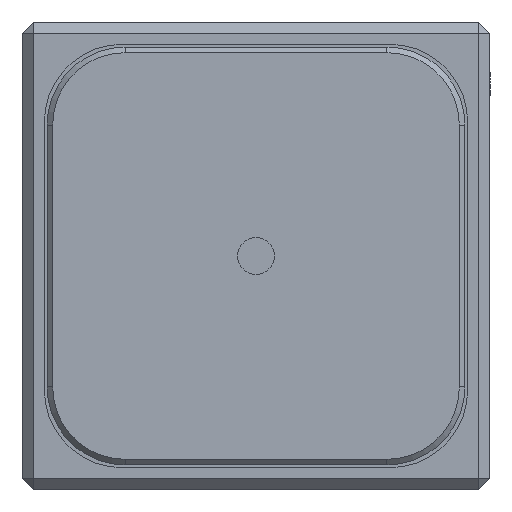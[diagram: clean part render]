
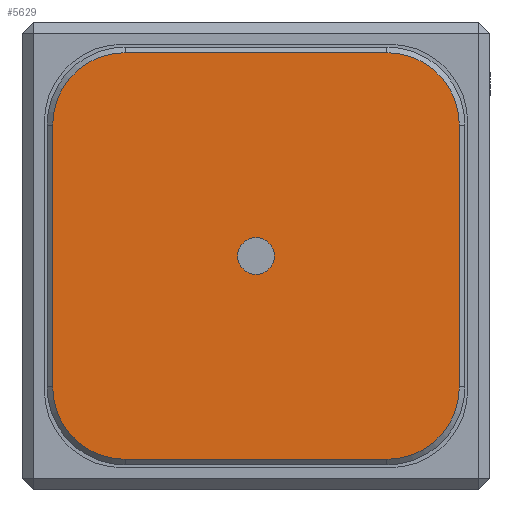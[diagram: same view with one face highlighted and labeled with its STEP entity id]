
A CAD part, front view. The second image highlights one B-rep face of the part: STEP entity #5629.
In plain terms, the highlighted planar face has unit normal (0, -1, 0).
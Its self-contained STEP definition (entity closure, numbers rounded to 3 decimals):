
#86 = VECTOR ( 'NONE', #3104, 1000. ) ;
#518 = ORIENTED_EDGE ( 'NONE', *, *, #9146, .F. ) ;
#525 = DIRECTION ( 'NONE',  ( 0., -1., 0. ) ) ;
#692 = AXIS2_PLACEMENT_3D ( 'NONE', #8023, #5794, #2154 ) ;
#714 = VERTEX_POINT ( 'NONE', #7784 ) ;
#749 = ORIENTED_EDGE ( 'NONE', *, *, #4318, .T. ) ;
#758 = VERTEX_POINT ( 'NONE', #7203 ) ;
#793 = CARTESIAN_POINT ( 'NONE',  ( -18.25, -21.2, -11.75 ) ) ;
#837 = CARTESIAN_POINT ( 'NONE',  ( 0., -21.2, 0. ) ) ;
#879 = DIRECTION ( 'NONE',  ( 0., -1., 0. ) ) ;
#931 = DIRECTION ( 'NONE',  ( -1., 0., 0. ) ) ;
#1045 = DIRECTION ( 'NONE',  ( -1., 0., 0. ) ) ;
#1138 = DIRECTION ( 'NONE',  ( 0., -1., 0. ) ) ;
#1313 = DIRECTION ( 'NONE',  ( 0., 0., 1. ) ) ;
#1341 = CARTESIAN_POINT ( 'NONE',  ( 18.25, -21.2, -11.75 ) ) ;
#1513 = VERTEX_POINT ( 'NONE', #6354 ) ;
#1625 = EDGE_CURVE ( 'NONE', #3387, #3061, #3778, .T. ) ;
#1682 = DIRECTION ( 'NONE',  ( 1., 0., 0. ) ) ;
#1749 = DIRECTION ( 'NONE',  ( 0., -1., 0. ) ) ;
#1822 = CIRCLE ( 'NONE', #5081, 6.5 ) ;
#1914 = AXIS2_PLACEMENT_3D ( 'NONE', #3112, #1749, #8397 ) ;
#2015 = FACE_BOUND ( 'NONE', #4229, .T. ) ;
#2041 = VERTEX_POINT ( 'NONE', #6326 ) ;
#2154 = DIRECTION ( 'NONE',  ( -1., 0., 0. ) ) ;
#2476 = CARTESIAN_POINT ( 'NONE',  ( 11.75, -21.2, -18.25 ) ) ;
#2549 = DIRECTION ( 'NONE',  ( 0., -1., 0. ) ) ;
#2803 = VECTOR ( 'NONE', #1682, 1000. ) ;
#2906 = CARTESIAN_POINT ( 'NONE',  ( 18.25, -21.2, 11.75 ) ) ;
#2928 = ORIENTED_EDGE ( 'NONE', *, *, #9168, .T. ) ;
#2934 = VERTEX_POINT ( 'NONE', #2906 ) ;
#2950 = CIRCLE ( 'NONE', #8364, 1.65 ) ;
#3061 = VERTEX_POINT ( 'NONE', #8853 ) ;
#3104 = DIRECTION ( 'NONE',  ( 0., 0., -1. ) ) ;
#3112 = CARTESIAN_POINT ( 'NONE',  ( 0., -21.2, 0. ) ) ;
#3140 = DIRECTION ( 'NONE',  ( -1., 0., 0. ) ) ;
#3155 = CIRCLE ( 'NONE', #1914, 1.65 ) ;
#3248 = VECTOR ( 'NONE', #1313, 1000. ) ;
#3387 = VERTEX_POINT ( 'NONE', #8739 ) ;
#3413 = EDGE_CURVE ( 'NONE', #714, #3387, #5014, .T. ) ;
#3475 = DIRECTION ( 'NONE',  ( -1., 0., 0. ) ) ;
#3778 = CIRCLE ( 'NONE', #6865, 6.5 ) ;
#3846 = VERTEX_POINT ( 'NONE', #7596 ) ;
#3999 = EDGE_LOOP ( 'NONE', ( #749, #2928, #4163, #6200, #7089, #8124, #9111, #9229 ) ) ;
#4163 = ORIENTED_EDGE ( 'NONE', *, *, #8088, .T. ) ;
#4229 = EDGE_LOOP ( 'NONE', ( #9380, #518 ) ) ;
#4318 = EDGE_CURVE ( 'NONE', #2041, #3846, #1822, .T. ) ;
#5014 = LINE ( 'NONE', #6704, #7869 ) ;
#5081 = AXIS2_PLACEMENT_3D ( 'NONE', #7780, #1138, #1045 ) ;
#5163 = VERTEX_POINT ( 'NONE', #1341 ) ;
#5199 = LINE ( 'NONE', #6698, #3248 ) ;
#5504 = DIRECTION ( 'NONE',  ( -1., 0., 0. ) ) ;
#5629 = ADVANCED_FACE ( 'NONE', ( #7883, #2015 ), #7149, .T. ) ;
#5719 = CIRCLE ( 'NONE', #8501, 6.5 ) ;
#5794 = DIRECTION ( 'NONE',  ( 0., -1., 0. ) ) ;
#6142 = EDGE_CURVE ( 'NONE', #3061, #2041, #6788, .T. ) ;
#6177 = CARTESIAN_POINT ( 'NONE',  ( 11.75, -21.2, 11.75 ) ) ;
#6200 = ORIENTED_EDGE ( 'NONE', *, *, #8983, .T. ) ;
#6326 = CARTESIAN_POINT ( 'NONE',  ( -18.25, -21.2, -11.75 ) ) ;
#6354 = CARTESIAN_POINT ( 'NONE',  ( 1.65, -21.2, 0. ) ) ;
#6698 = CARTESIAN_POINT ( 'NONE',  ( 18.25, -21.2, 11.75 ) ) ;
#6704 = CARTESIAN_POINT ( 'NONE',  ( -11.75, -21.2, 18.25 ) ) ;
#6743 = LINE ( 'NONE', #2476, #2803 ) ;
#6788 = LINE ( 'NONE', #793, #86 ) ;
#6865 = AXIS2_PLACEMENT_3D ( 'NONE', #9102, #879, #3140 ) ;
#7089 = ORIENTED_EDGE ( 'NONE', *, *, #9311, .T. ) ;
#7149 = PLANE ( 'NONE',  #8791 ) ;
#7203 = CARTESIAN_POINT ( 'NONE',  ( 11.75, -21.2, -18.25 ) ) ;
#7596 = CARTESIAN_POINT ( 'NONE',  ( -11.75, -21.2, -18.25 ) ) ;
#7780 = CARTESIAN_POINT ( 'NONE',  ( -11.75, -21.2, -11.75 ) ) ;
#7784 = CARTESIAN_POINT ( 'NONE',  ( 11.75, -21.2, 18.25 ) ) ;
#7869 = VECTOR ( 'NONE', #931, 1000. ) ;
#7883 = FACE_OUTER_BOUND ( 'NONE', #3999, .T. ) ;
#8023 = CARTESIAN_POINT ( 'NONE',  ( 11.75, -21.2, -11.75 ) ) ;
#8088 = EDGE_CURVE ( 'NONE', #758, #5163, #9196, .T. ) ;
#8124 = ORIENTED_EDGE ( 'NONE', *, *, #3413, .T. ) ;
#8193 = DIRECTION ( 'NONE',  ( -1., 0., 0. ) ) ;
#8285 = EDGE_CURVE ( 'NONE', #8966, #1513, #3155, .T. ) ;
#8364 = AXIS2_PLACEMENT_3D ( 'NONE', #837, #9008, #8193 ) ;
#8397 = DIRECTION ( 'NONE',  ( -1., 0., 0. ) ) ;
#8501 = AXIS2_PLACEMENT_3D ( 'NONE', #6177, #2549, #5504 ) ;
#8739 = CARTESIAN_POINT ( 'NONE',  ( -11.75, -21.2, 18.25 ) ) ;
#8791 = AXIS2_PLACEMENT_3D ( 'NONE', #8804, #525, #3475 ) ;
#8804 = CARTESIAN_POINT ( 'NONE',  ( 0., -21.2, 0. ) ) ;
#8853 = CARTESIAN_POINT ( 'NONE',  ( -18.25, -21.2, 11.75 ) ) ;
#8879 = CARTESIAN_POINT ( 'NONE',  ( -1.65, -21.2, 0. ) ) ;
#8966 = VERTEX_POINT ( 'NONE', #8879 ) ;
#8983 = EDGE_CURVE ( 'NONE', #5163, #2934, #5199, .T. ) ;
#9008 = DIRECTION ( 'NONE',  ( 0., -1., 0. ) ) ;
#9102 = CARTESIAN_POINT ( 'NONE',  ( -11.75, -21.2, 11.75 ) ) ;
#9111 = ORIENTED_EDGE ( 'NONE', *, *, #1625, .T. ) ;
#9146 = EDGE_CURVE ( 'NONE', #1513, #8966, #2950, .T. ) ;
#9168 = EDGE_CURVE ( 'NONE', #3846, #758, #6743, .T. ) ;
#9196 = CIRCLE ( 'NONE', #692, 6.5 ) ;
#9229 = ORIENTED_EDGE ( 'NONE', *, *, #6142, .T. ) ;
#9311 = EDGE_CURVE ( 'NONE', #2934, #714, #5719, .T. ) ;
#9380 = ORIENTED_EDGE ( 'NONE', *, *, #8285, .F. ) ;
